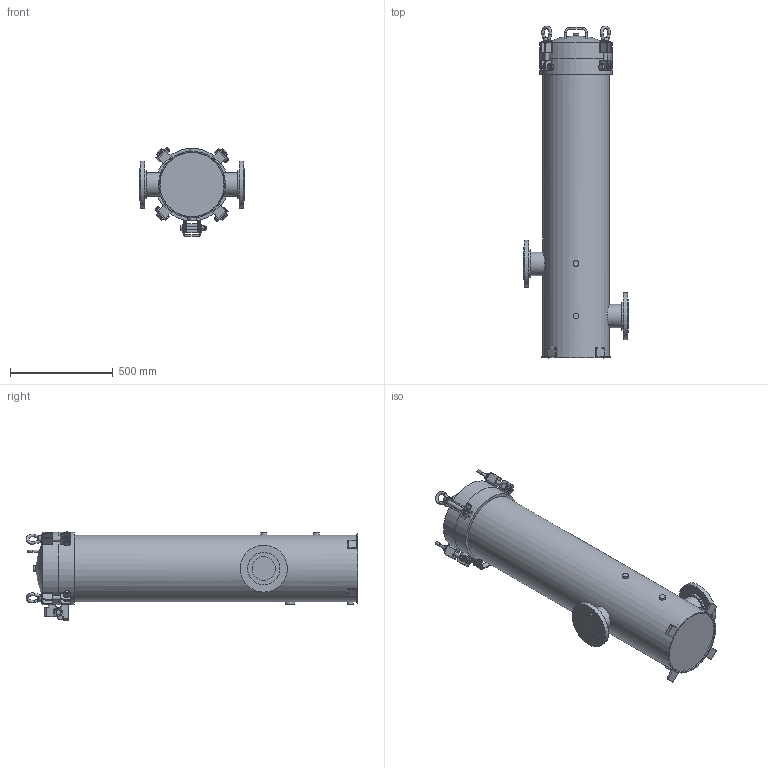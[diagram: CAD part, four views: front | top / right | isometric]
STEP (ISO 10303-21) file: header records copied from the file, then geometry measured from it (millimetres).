
FILE_DESCRIPTION (( 'STEP AP203' ), '1' );
FILE_NAME ('001021-00152.STEP', '2025-12-11T14:12:12', ( '' ), ( '' ), 'SwSTEP 2.0', 'SolidWorks 2023', '' );
FILE_SCHEMA (( 'CONFIG_CONTROL_DESIGN' ));
Length unit declared in the file: inch
Products named in the file (1): 001021-00152
Bounding box: 508 x 1611.85 x 428.57 mm (x, y, z)
Volume: 28190948.8 mm3; surface area: 3864142.7 mm2
Topology: 15 solids, 15 shells, 787 faces, 1838 edges, 1131 vertices
Faces by surface type: plane 353, cylinder 210, cone 117, bspline 75, torus 31, sphere 1
Full cylindrical faces by diameter (mm): 9.525 x2, 12.7 x8, 15.875 x32, 19.05 x8, 23.813 x6, 26.987 x4, 28.575 x7, 33.325 x8, 38.1 x2, 44.45 x2, 50.8 x4, 114.3 x4, 157.162 x1, 157.163 x1, 228.6 x2, 311.531 x1, 352.425 x2
Entity records: 26866 total; most frequent: CARTESIAN_POINT 10331, DIRECTION 3354, ORIENTED_EDGE 3268, EDGE_CURVE 1634, AXIS2_PLACEMENT_3D 1371, VERTEX_POINT 1074, EDGE_LOOP 1006, FACE_OUTER_BOUND 908
